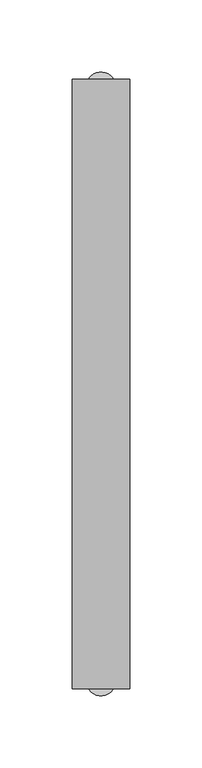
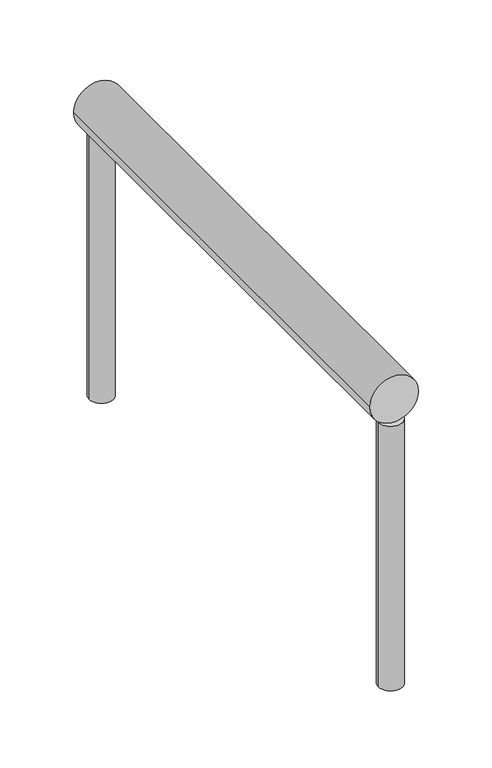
"""IFC4 building model written with IfcOpenShell, lengths in millimetres: railing geometry, Geländer-1."""

import ifcopenshell
import ifcopenshell.guid

model = None  # the IFC model being written
_history = None  # IfcOwnerHistory: only IFC2X3 demands one
_inside = {}  # id of a spatial element -> (the spatial element, [elements in it])
_under = {}  # id of a project, library or spatial element -> (it, [spatial elements below it])
_declared = {}  # id of a project -> (the project, [libraries it declares])
_typed = {}  # id of a type object -> (the type object, [elements of that type])
_made_of = {}  # id of a material, layer set ... -> (it, [elements and type objects made of it])


def new_model(schema):
    """Start an empty IFC model of exactly this schema.

    Asked for "IFC4X3", IfcOpenShell would pick the latest addendum, in which some entities
    have other attributes; the version numbers below select the first issue.
    IFC2X3 requires an IfcOwnerHistory on every rooted entity: one is made here for all.
    """
    global model, _history
    if schema == "IFC4X3":
        model = ifcopenshell.file(schema_version=(4, 3, 0, 0))
    else:
        model = ifcopenshell.file(schema=schema)
    _inside.clear()
    _under.clear()
    _declared.clear()
    _typed.clear()
    _made_of.clear()
    _history = None
    if model.schema == "IFC2X3":
        org = make("IfcOrganization", Name="unknown")
        user = make(
            "IfcPersonAndOrganization",
            ThePerson=make("IfcPerson", FamilyName="unknown"),
            TheOrganization=org,
        )
        app = make(
            "IfcApplication",
            ApplicationDeveloper=org,
            Version="unknown",
            ApplicationFullName="unknown",
            ApplicationIdentifier="unknown",
        )
        _history = make(
            "IfcOwnerHistory",
            OwningUser=user,
            OwningApplication=app,
            ChangeAction="ADDED",
            CreationDate=0,
        )
    return model


def make(cls, **values):
    """One entity of the class cls with the attributes given. An attribute that is None is left unset."""
    return model.create_entity(
        cls, **{name: value for name, value in values.items() if value is not None}
    )


def rooted(cls, **values):
    """An entity with a GlobalId (a new one), such as an element, a storey or a relation."""
    return make(cls, GlobalId=ifcopenshell.guid.new(), OwnerHistory=_history, **values)


def si_unit(unit_type, name, prefix=None):
    """IfcSIUnit, for example si_unit("LENGTHUNIT", "METRE", prefix="MILLI")."""
    return make("IfcSIUnit", UnitType=unit_type, Prefix=prefix, Name=name)


def assignment(units):
    """IfcUnitAssignment: the units of a project."""
    return None if units is None else make("IfcUnitAssignment", Units=units)


def point(xyz):
    """IfcCartesianPoint."""
    return None if xyz is None else make("IfcCartesianPoint", Coordinates=xyz)


def direction(xyz):
    """IfcDirection."""
    return None if xyz is None else make("IfcDirection", DirectionRatios=xyz)


def frame(location, z_axis=None, x_axis=None):
    """IfcAxis2Placement3D, a coordinate frame: its origin and axes. An axis left out is left unset."""
    return make(
        "IfcAxis2Placement3D",
        Location=point(location),
        Axis=direction(z_axis),
        RefDirection=direction(x_axis),
    )


def frame_2d(location, x_axis=None):
    """IfcAxis2Placement2D, a coordinate frame in the plane: its origin and x axis."""
    return make(
        "IfcAxis2Placement2D", Location=point(location), RefDirection=direction(x_axis)
    )


def origin():
    """The frame at (0, 0, 0) with its axes left unset."""
    return frame((0.0, 0.0, 0.0))


def place(relative_to, where):
    """IfcLocalPlacement: puts the frame where relative to a parent placement (None: the world)."""
    return make(
        "IfcLocalPlacement", PlacementRelTo=relative_to, RelativePlacement=where
    )


def context(
    kind, dimensions, precision=None, world=None, true_north=None, identifier=None
):
    """IfcGeometricRepresentationContext, for example the 3D "Model" context."""
    return make(
        "IfcGeometricRepresentationContext",
        ContextIdentifier=identifier,
        ContextType=kind,
        CoordinateSpaceDimension=dimensions,
        Precision=precision,
        WorldCoordinateSystem=world,
        TrueNorth=true_north,
    )


def project(units=None, contexts=None):
    """IfcProject with its units and contexts."""
    return rooted(
        "IfcProject",
        Name="project",
        RepresentationContexts=contexts,
        UnitsInContext=assignment(units),
    )


def spatial(cls, under=None, at=None, **own):
    """A site, building, storey or space (cls), placed at a placement, below another one or the project."""
    s = rooted(cls, ObjectPlacement=at, **own)
    if under is not None:
        _under.setdefault(under.id(), (under, []))[1].append(s)
    return s


def circle_curve(where, radius):
    """IfcCircle in the frame where."""
    return make("IfcCircle", Position=where, Radius=radius)


def trimmed(basis, trim1, trim2, sense, master):
    """IfcTrimmedCurve: the piece of a basis curve between two trims."""
    return make(
        "IfcTrimmedCurve",
        BasisCurve=basis,
        Trim1=trim1,
        Trim2=trim2,
        SenseAgreement=sense,
        MasterRepresentation=master,
    )


def segment(curve, same_sense, transition):
    """IfcCompositeCurveSegment."""
    return make(
        "IfcCompositeCurveSegment",
        Transition=transition,
        SameSense=same_sense,
        ParentCurve=curve,
    )


def composite_curve(segments, self_intersect=None):
    """IfcCompositeCurve: segments joined end to end."""
    return make("IfcCompositeCurve", Segments=segments, SelfIntersect=self_intersect)


def outline(outer, holes=None, kind="AREA"):
    """IfcArbitraryClosedProfileDef: a profile drawn as a closed curve; with holes, ...WithVoids."""
    if holes is None:
        return make("IfcArbitraryClosedProfileDef", ProfileType=kind, OuterCurve=outer)
    return make(
        "IfcArbitraryProfileDefWithVoids",
        ProfileType=kind,
        OuterCurve=outer,
        InnerCurves=holes,
    )


def extrude(swept, where, along, depth):
    """IfcExtrudedAreaSolid: the profile swept, set in the frame where, extruded along a direction by depth."""
    return make(
        "IfcExtrudedAreaSolid",
        SweptArea=swept,
        Position=where,
        ExtrudedDirection=direction(along),
        Depth=depth,
    )


def shape(context_of_items, identifier, shape_type, items):
    """IfcShapeRepresentation: the items that make up one representation, for example the "Body"."""
    return make(
        "IfcShapeRepresentation",
        ContextOfItems=context_of_items,
        RepresentationIdentifier=identifier,
        RepresentationType=shape_type,
        Items=items,
    )


def source(mapping_origin, context_of_items, identifier, shape_type, items):
    """IfcRepresentationMap: a shape defined once, which mapped items show again and again."""
    return make(
        "IfcRepresentationMap",
        MappingOrigin=mapping_origin,
        MappedRepresentation=shape(context_of_items, identifier, shape_type, items),
    )


def transform(
    local_origin,
    x_axis=None,
    y_axis=None,
    z_axis=None,
    scale=None,
    scale2=None,
    scale3=None,
    uniform=True,
):
    """IfcCartesianTransformationOperator3D, or its non-uniform kind. x_axis, y_axis, z_axis: its Axis1, 2, 3."""
    if uniform:
        return make(
            "IfcCartesianTransformationOperator3D",
            Axis1=direction(x_axis),
            Axis2=direction(y_axis),
            LocalOrigin=point(local_origin),
            Scale=scale,
            Axis3=direction(z_axis),
        )
    return make(
        "IfcCartesianTransformationOperator3DnonUniform",
        Axis1=direction(x_axis),
        Axis2=direction(y_axis),
        LocalOrigin=point(local_origin),
        Scale=scale,
        Axis3=direction(z_axis),
        Scale2=scale2,
        Scale3=scale3,
    )


def mapped(mapping_source, mapping_target):
    """IfcMappedItem: shows the shape of a source again, moved by a transform."""
    return make(
        "IfcMappedItem", MappingSource=mapping_source, MappingTarget=mapping_target
    )


def made_of(thing, what):
    """Note that an element or type object is made of a material, layer set ...; save() writes the relation."""
    if what is not None:
        _made_of.setdefault(what.id(), (what, []))[1].append(thing)
    return thing


def element(
    cls,
    number,
    at=None,
    inside=None,
    cuts=None,
    type_object=None,
    material=None,
    context=None,
    identifier="Body",
    shape_type=None,
    held_by="IfcProductDefinitionShape",
    body=None,
    shapes=None,
    **own,
):
    """One element of the class cls, such as IfcWall. Its Tag is "e" and its number.

    at: its placement. inside: the storey or other place that contains it. cuts: it is an
    opening in that element (IfcRelVoidsElement). A single representation is given by context,
    identifier, shape_type and body (its items); several are given by shapes. held_by: the class
    of the entity that holds the representations. save() writes the other relations.
    """
    e = rooted(cls, Tag="e%d" % number, ObjectPlacement=at, **own)
    if body is not None:
        shapes = [shape(context, identifier, shape_type, body)]
    if shapes is not None:
        e.Representation = make(held_by, Representations=shapes)
    if inside is not None:
        _inside.setdefault(inside.id(), (inside, []))[1].append(e)
    if cuts is not None:
        rooted(
            "IfcRelVoidsElement", RelatingBuildingElement=cuts, RelatedOpeningElement=e
        )
    if type_object is not None:
        _typed.setdefault(type_object.id(), (type_object, []))[1].append(e)
    return made_of(e, material)


def aggregate(whole, parts):
    """IfcRelAggregates: a whole, such as a stair, and the parts it consists of."""
    return rooted("IfcRelAggregates", RelatingObject=whole, RelatedObjects=parts)


def save(model, path):
    """Write the relations noted so far, then the file.

    IfcRelAggregates (storeys below a building ...), IfcRelContainedInSpatialStructure (elements
    in a storey), IfcRelDefinesByType, IfcRelAssociatesMaterial and IfcRelDeclares: one each for
    every whole, place, type object, material and project.
    """
    for whole, parts in _under.values():
        aggregate(whole, parts)
    for where, things in _inside.values():
        rooted(
            "IfcRelContainedInSpatialStructure",
            RelatedElements=things,
            RelatingStructure=where,
        )
    for kind, things in _typed.values():
        rooted("IfcRelDefinesByType", RelatedObjects=things, RelatingType=kind)
    for what, things in _made_of.values():
        rooted("IfcRelAssociatesMaterial", RelatedObjects=things, RelatingMaterial=what)
    for by, libraries in _declared.values():
        rooted("IfcRelDeclares", RelatingContext=by, RelatedDefinitions=libraries)
    model.write(path)


def railing_bb0542ad(model_context):
    return source(origin(), model_context, "Body", "SweptSolid", [
        extrude(outline(composite_curve([segment(trimmed(circle_curve(frame_2d((1250.0, 3615.0)), 20.0), [point((1250.0, 3635.0))], [point((1250.0, 3595.0))], False, "CARTESIAN"), True, "CONTINUOUS"), segment(trimmed(circle_curve(frame_2d((1250.0, 3615.0)), 20.0), [point((1250.0, 3595.0))], [point((1250.0, 3635.0))], False, "CARTESIAN"), True, "CONTINUOUS")], self_intersect=False)), frame((0.0, -1030.0, 0.0), z_axis=(0.0, 1.0, 0.0), x_axis=(0.0, 0.0, 1.0)), (0.0, 0.0, 1.0), 422.6837386),
        extrude(outline(composite_curve([segment(trimmed(circle_curve(frame_2d((3615.0, -1025.0)), 10.0), [point((3625.0, -1025.0))], [point((3605.0, -1025.0))], False, "CARTESIAN"), True, "CONTINUOUS"), segment(trimmed(circle_curve(frame_2d((3615.0, -1025.0)), 10.0), [point((3605.0, -1025.0))], [point((3625.0, -1025.0))], False, "CARTESIAN"), True, "CONTINUOUS")], self_intersect=False)), frame((0.0, 0.0, 1000.0), z_axis=(0.0, 0.0, 1.0), x_axis=(1.0, 0.0, 0.0)), (0.0, 0.0, 1.0), 230.0),
        extrude(outline(composite_curve([segment(trimmed(circle_curve(frame_2d((3615.0, -612.3162614)), 10.0), [point((3625.0, -612.3162614))], [point((3605.0, -612.3162614))], False, "CARTESIAN"), True, "CONTINUOUS"), segment(trimmed(circle_curve(frame_2d((3615.0, -612.3162614)), 10.0), [point((3605.0, -612.3162614))], [point((3625.0, -612.3162614))], False, "CARTESIAN"), True, "CONTINUOUS")], self_intersect=False)), frame((0.0, 0.0, 1000.0), z_axis=(0.0, 0.0, 1.0), x_axis=(1.0, 0.0, 0.0)), (0.0, 0.0, 1.0), 230.0),
    ])


if __name__ == "__main__":
    model = new_model("IFC4")
    model_context = context("Model", 3, world=origin())
    ifc_project = project(units=[si_unit("LENGTHUNIT", "METRE", prefix="MILLI")], contexts=[model_context])
    site = spatial("IfcSite", under=ifc_project)
    building = spatial("IfcBuilding", under=site)
    placement = place(None, origin())
    railing_shape = railing_bb0542ad(model_context)
    element("IfcRailing", 1, ObjectType="Geländer-1", at=placement, inside=building, context=model_context, shape_type="MappedRepresentation", body=[
        mapped(railing_shape, transform((0.0, 0.0, 0.0), x_axis=(1.0, 0.0, 0.0), y_axis=(0.0, 1.0, 0.0), z_axis=(0.0, 0.0, 1.0))),
    ])
    save(model, "model.ifc")
